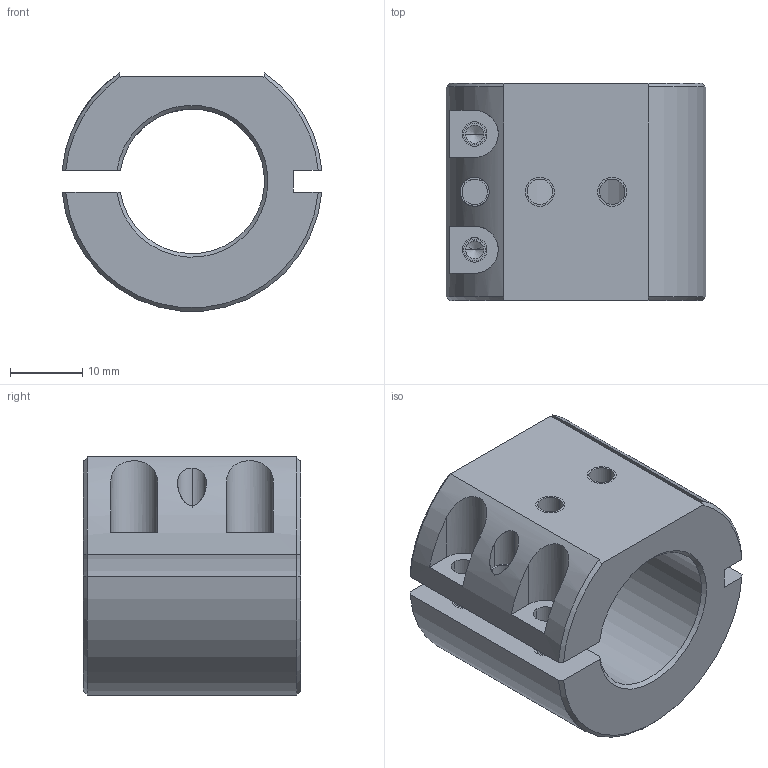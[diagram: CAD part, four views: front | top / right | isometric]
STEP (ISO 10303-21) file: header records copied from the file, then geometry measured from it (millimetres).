
FILE_DESCRIPTION((''),'2;1');
FILE_NAME('0000090572_PRT','2015-08-04T',('pdmservice'),(''),'PRO/ENGINEER BY PARAMETRIC TECHNOLOGY CORPORATION, 2014090','PRO/ENGINEER BY PARAMETRIC TECHNOLOGY CORPORATION, 2014090','');
FILE_SCHEMA(('AUTOMOTIVE_DESIGN { 1 0 10303 214 1 1 1 1 }'));
Length unit declared in the file: millimetre
Products named in the file (1): 0000090572_PRT
Bounding box: 35.87 x 30 x 32.9 mm (x, y, z)
Volume: 17683.1 mm3; surface area: 7805.4 mm2
Topology: 1 solids, 6 shells, 63 faces, 168 edges, 110 vertices
Faces by surface type: cylinder 32, plane 19, cone 12
Entity records: 3556 total; most frequent: CARTESIAN_POINT 874, DIRECTION 324, ORIENTED_EDGE 308, PRESENTATION_STYLE_ASSIGNMENT 170, STYLED_ITEM 170, CURVE_STYLE 164, EDGE_CURVE 164, AXIS2_PLACEMENT_3D 130
